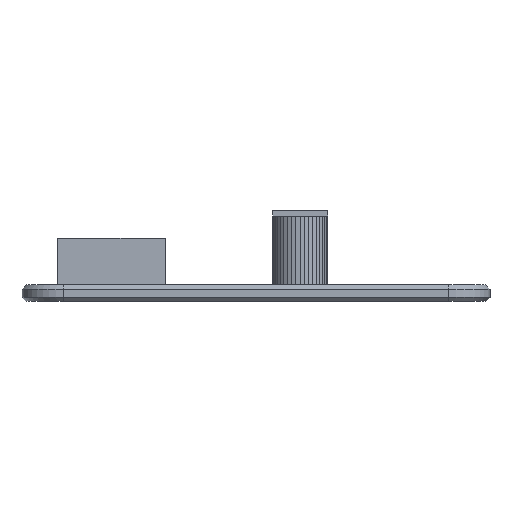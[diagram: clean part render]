
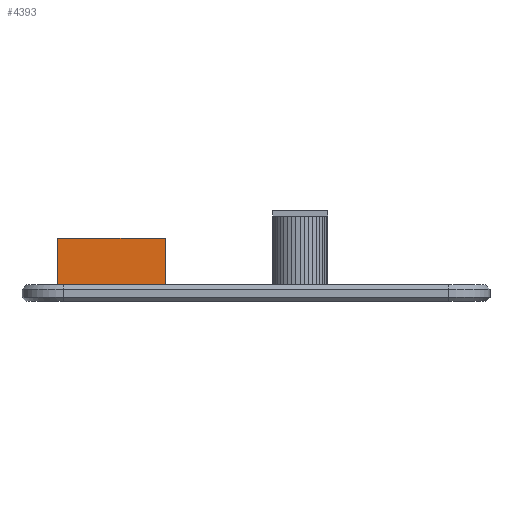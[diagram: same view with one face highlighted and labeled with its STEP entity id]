
A CAD part, left-side view. The second image highlights one B-rep face of the part: STEP entity #4393.
In plain terms, the highlighted planar face has unit normal (-1, 0, 0).
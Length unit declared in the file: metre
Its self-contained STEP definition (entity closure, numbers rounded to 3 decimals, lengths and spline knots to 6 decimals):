
#82=LINE('',#6129,#664);
#312=LINE('',#6590,#894);
#316=LINE('',#6599,#898);
#318=LINE('',#6603,#900);
#664=VECTOR('',#4922,1.);
#894=VECTOR('',#5348,1.);
#898=VECTOR('',#5358,1.);
#900=VECTOR('',#5362,1.);
#1672=ORIENTED_EDGE('',*,*,#2724,.T.);
#1673=ORIENTED_EDGE('',*,*,#2494,.F.);
#1674=ORIENTED_EDGE('',*,*,#2728,.F.);
#1675=ORIENTED_EDGE('',*,*,#2730,.T.);
#2494=EDGE_CURVE('',#3112,#3113,#82,.T.);
#2724=EDGE_CURVE('',#3246,#3113,#312,.T.);
#2728=EDGE_CURVE('',#3248,#3112,#316,.T.);
#2730=EDGE_CURVE('',#3248,#3246,#318,.F.);
#3112=VERTEX_POINT('',#6128);
#3113=VERTEX_POINT('',#6130);
#3246=VERTEX_POINT('',#6591);
#3248=VERTEX_POINT('',#6600);
#3591=EDGE_LOOP('',(#1672,#1673,#1674,#1675));
#3883=FACE_BOUND('',#3591,.T.);
#4162=PLANE('',#4673);
#4393=ADVANCED_FACE('',(#3883),#4162,.T.);
#4673=AXIS2_PLACEMENT_3D('',#6602,#5360,#5361);
#4922=DIRECTION('',(0.,1.,0.));
#5348=DIRECTION('',(0.,0.,-1.));
#5358=DIRECTION('',(0.,0.,-1.));
#5360=DIRECTION('',(-1.,0.,0.));
#5361=DIRECTION('',(0.,0.,-1.));
#5362=DIRECTION('',(0.,-1.,0.));
#6128=CARTESIAN_POINT('',(0.102,0.069,0.006));
#6129=CARTESIAN_POINT('',(0.102,0.0605,0.006));
#6130=CARTESIAN_POINT('',(0.102,0.108,0.006));
#6590=CARTESIAN_POINT('',(0.102,0.108,0.0145));
#6591=CARTESIAN_POINT('',(0.102,0.108,0.023));
#6599=CARTESIAN_POINT('',(0.102,0.069,0.0145));
#6600=CARTESIAN_POINT('',(0.102,0.069,0.023));
#6602=CARTESIAN_POINT('',(0.102,0.0885,0.0145));
#6603=CARTESIAN_POINT('',(0.102,0.0885,0.023));
